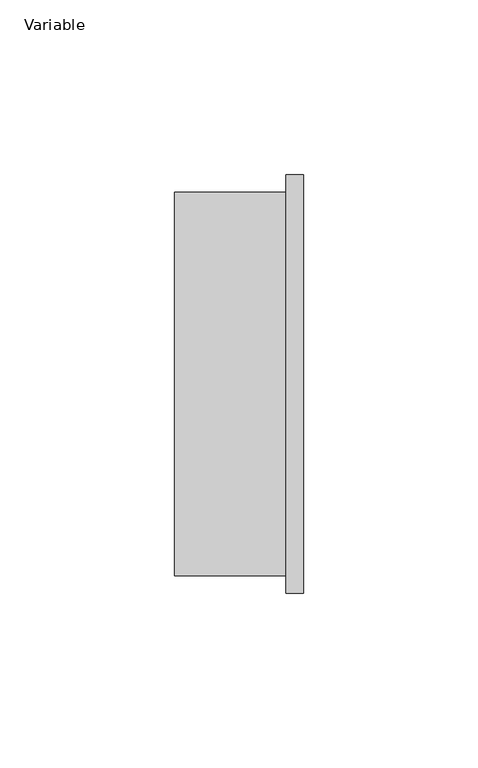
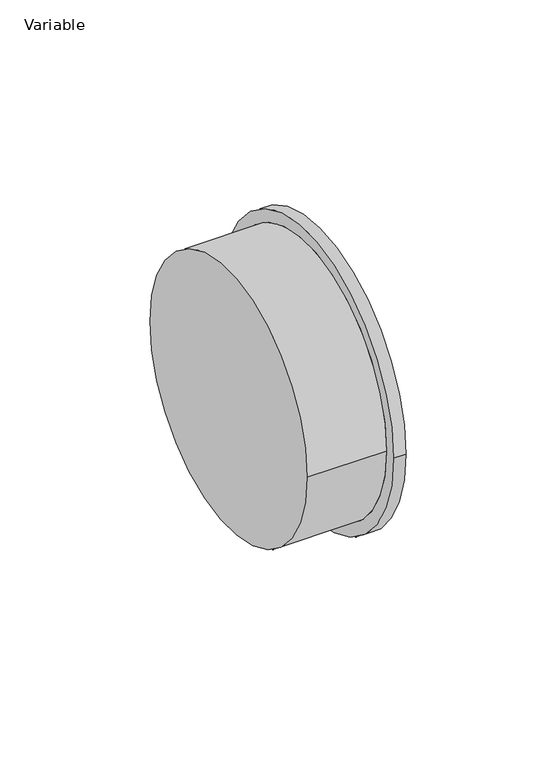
"""IFC4 building model written with IfcOpenShell, lengths in millimetres: pipe fitting geometry, AliaxisFR_Friaphon_Cap_FR : Variable."""

from ifc_helpers import new_model, si_unit, frame, origin, place, context, project, spatial, circle_curve, source, transform, mapped, element, save
from ifc_brep_helpers import plane_surface, cylinder_surface, advanced_brep


def variable_dd3b78e0(model_context):
    return source(origin(), model_context, "Body", "AdvancedBrep", [
        advanced_brep(
        [(29.5, -55.0, 0.0), (29.5, 55.0, 0.0), (66.5, -60.0, 0.0), (66.5, 60.0, 0.0), (61.5, -60.0, 0.0), (61.5, 60.0, 0.0), (61.5, -55.0, 0.0), (61.5, 55.0, 0.0)],
        [
            (0, 1, circle_curve(frame((29.5, 0.0, 0.0), z_axis=(-1.0, 0.0, 0.0), x_axis=(0.0, 1.0, 0.0)), 55.0)),
            (1, 0, circle_curve(frame((29.5, 0.0, 0.0), z_axis=(-1.0, 0.0, 0.0), x_axis=(0.0, 1.0, 0.0)), 55.0)),
            (2, 3, circle_curve(frame((66.5, 0.0, 0.0), z_axis=(1.0, 0.0, 0.0), x_axis=(0.0, 1.0, 0.0)), 60.0)),
            (3, 2, circle_curve(frame((66.5, 0.0, 0.0), z_axis=(1.0, 0.0, 0.0), x_axis=(0.0, 1.0, 0.0)), 60.0)),
            (4, 5, circle_curve(frame((61.5, 0.0, 0.0), z_axis=(-1.0, 0.0, 0.0), x_axis=(0.0, 1.0, 0.0)), 60.0)),
            (5, 4, circle_curve(frame((61.5, 0.0, 0.0), z_axis=(-1.0, 0.0, 0.0), x_axis=(0.0, 1.0, 0.0)), 60.0)),
            (6, 7, circle_curve(frame((61.5, 0.0, 0.0), z_axis=(1.0, 0.0, 0.0), x_axis=(0.0, 1.0, 0.0)), 55.0)),
            (7, 6, circle_curve(frame((61.5, 0.0, 0.0), z_axis=(1.0, 0.0, 0.0), x_axis=(0.0, 1.0, 0.0)), 55.0)),
            (2, 4),
            (5, 3),
            (1, 7),
            (6, 0),
        ],
        [
            plane_surface(frame((29.5, 55.0, 0.0), z_axis=(-1.0, 0.0, 0.0), x_axis=(0.0, 0.0, -1.0))),
            plane_surface(frame((66.5, 60.0, 0.0), z_axis=(1.0, 0.0, 0.0), x_axis=(0.0, 0.0, 1.0))),
            plane_surface(frame((61.5, 60.0, 0.0), z_axis=(-1.0, 0.0, 0.0), x_axis=(0.0, 0.0, -1.0))),
            cylinder_surface(frame((61.5, 0.0, 0.0), z_axis=(1.0, 0.0, 0.0), x_axis=(0.0, 1.0, 0.0)), 60.0),
            cylinder_surface(frame((29.5, 0.0, 0.0), z_axis=(1.0, 0.0, 0.0), x_axis=(0.0, 1.0, 0.0)), 55.0),
        ],
        [
            (0, [[1, 2]]),
            (1, [[3, 4]]),
            (2, [[5, 6], [7, 8]]),
            (3, [[-3, 9, -6, 10]]),
            (3, [[-4, -10, -5, -9]]),
            (4, [[-2, 11, -7, 12]]),
            (4, [[-1, -12, -8, -11]]),
        ],
    ),
    ])


if __name__ == "__main__":
    model = new_model("IFC4")
    model_context = context("Model", 3, world=origin())
    ifc_project = project(units=[si_unit("LENGTHUNIT", "METRE", prefix="MILLI")], contexts=[model_context])
    site = spatial("IfcSite", under=ifc_project)
    building = spatial("IfcBuilding", under=site)
    placement = place(None, origin())
    variable_shape = variable_dd3b78e0(model_context)
    element("IfcPipeFitting", 1, ObjectType="AliaxisFR_Friaphon_Cap_FR : Variable", at=placement, inside=building, context=model_context, shape_type="MappedRepresentation", body=[
        mapped(variable_shape, transform((0.0, 0.0, 0.0), x_axis=(1.0, 0.0, 0.0), y_axis=(0.0, 1.0, 0.0), z_axis=(0.0, 0.0, 1.0))),
    ])
    save(model, "model.ifc")
